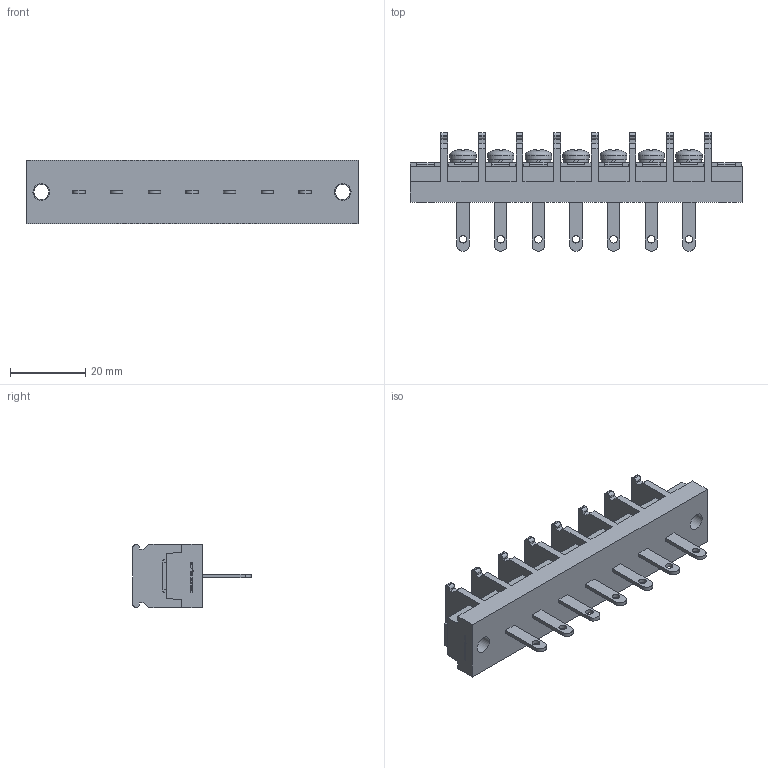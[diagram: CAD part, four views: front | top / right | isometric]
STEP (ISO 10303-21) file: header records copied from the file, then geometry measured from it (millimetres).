
FILE_DESCRIPTION(/* description */ ('Alibre Inc.'),/* implementation_level */ '2;1');
FILE_NAME(/* name */ 'export0',/* time_stamp */ '2015-10-14T19:16:09+09:00',/* author */ (''),/* organization */ (''),/* preprocessor_version */ 'ST-DEVELOPER v14',/* originating_system */ 'Alibre',/* authorisation */ '');
FILE_SCHEMA (('CONFIG_CONTROL_DESIGN'));
Length unit declared in the file: centimetre
Products named in the file (1): ID_1
Bounding box: 88.2 x 31.5 x 17 mm (x, y, z)
Volume: 16176.1 mm3; surface area: 9983 mm2
Topology: 1 solids, 17 shells, 920 faces, 2509 edges, 1668 vertices
Faces by surface type: plane 678, bspline 104, cylinder 89, cone 28, torus 14, sphere 7
Full cylindrical faces by diameter (mm): 2 x7, 4 x9, 4.5 x2, 6.5 x7, 7 x7
Entity records: 28092 total; most frequent: CARTESIAN_POINT 6158, ORIENTED_EDGE 4884, DIRECTION 3516, EDGE_CURVE 2442, VECTOR 1792, LINE 1792, VERTEX_POINT 1640, AXIS2_PLACEMENT_3D 1198
